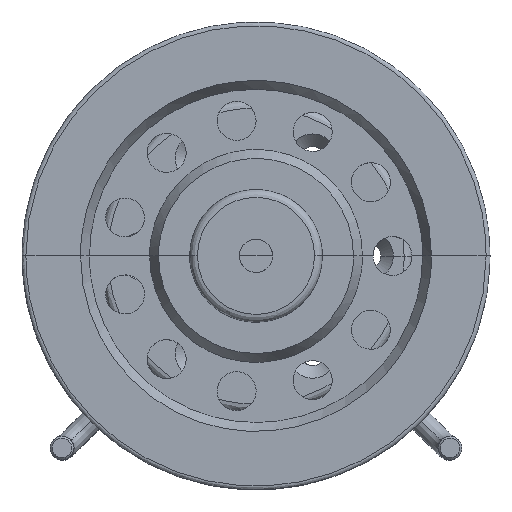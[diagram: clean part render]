
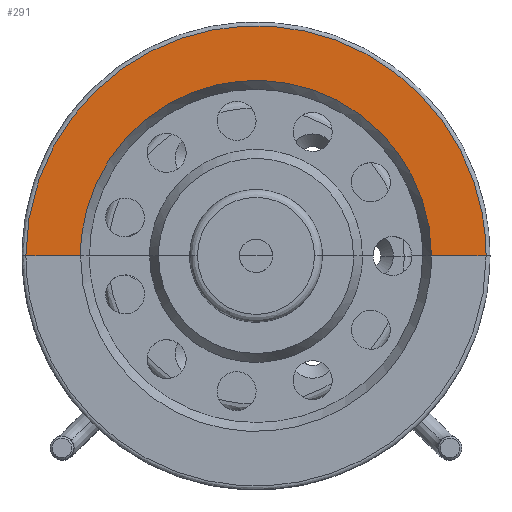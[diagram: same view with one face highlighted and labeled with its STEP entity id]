
A CAD part, top view. The second image highlights one B-rep face of the part: STEP entity #291.
In plain terms, the highlighted free-form (B-spline) face has degree [2, 1] with [5, 2] control points.
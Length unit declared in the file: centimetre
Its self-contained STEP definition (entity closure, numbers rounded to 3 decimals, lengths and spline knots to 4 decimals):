
#291=ADVANCED_FACE($,(#491),#2518,.T.);
#491=FACE_OUTER_BOUND($,#704,.T.);
#704=EDGE_LOOP($,(#1399,#1400,#1401,#1402));
#1399=ORIENTED_EDGE($,*,*,#2077,.T.);
#1400=ORIENTED_EDGE($,*,*,#1984,.F.);
#1401=ORIENTED_EDGE($,*,*,#1992,.F.);
#1402=ORIENTED_EDGE($,*,*,#2056,.F.);
#1984=EDGE_CURVE($,#2303,#2364,#2743,.T.);
#1992=EDGE_CURVE($,#2294,#2303,#8936,.T.);
#2056=EDGE_CURVE($,#2355,#2294,#2789,.T.);
#2077=EDGE_CURVE($,#2355,#2364,#8966,.T.);
#2294=VERTEX_POINT($,#8672);
#2303=VERTEX_POINT($,#8681);
#2355=VERTEX_POINT($,#8733);
#2364=VERTEX_POINT($,#8742);
#2518=(
BOUNDED_SURFACE()
B_SPLINE_SURFACE(2,1,((#8080,#8081),(#8082,#8083),(#8084,#8085),(#8086,#8087),
(#8088,#8089)),.UNSPECIFIED.,.F.,.F.,.F.)
B_SPLINE_SURFACE_WITH_KNOTS((3,2,3),(2,2),(0.,1.5708,3.1416),
(81.,95.),.UNSPECIFIED.)
GEOMETRIC_REPRESENTATION_ITEM()
RATIONAL_B_SPLINE_SURFACE(((1.,1.),(0.707,0.707),
(1.,1.),(0.707,0.707),(1.,1.)))
REPRESENTATION_ITEM($)
SURFACE()
);
#2743=(
BOUNDED_CURVE()
B_SPLINE_CURVE(2,(#7386,#7387,#7388,#7389,#7390),.UNSPECIFIED.,.F.,.F.)
B_SPLINE_CURVE_WITH_KNOTS((3,2,3),(0.,1.5708,3.1416),
.UNSPECIFIED.)
CURVE()
GEOMETRIC_REPRESENTATION_ITEM()
RATIONAL_B_SPLINE_CURVE((1.,0.707,1.,0.707,1.))
REPRESENTATION_ITEM($)
);
#2789=(
BOUNDED_CURVE()
B_SPLINE_CURVE(2,(#7648,#7649,#7650,#7651,#7652),.UNSPECIFIED.,.F.,.F.)
B_SPLINE_CURVE_WITH_KNOTS((3,2,3),(-3.1416,-1.5708,0.),
.UNSPECIFIED.)
CURVE()
GEOMETRIC_REPRESENTATION_ITEM()
RATIONAL_B_SPLINE_CURVE((1.,0.707,1.,0.707,1.))
REPRESENTATION_ITEM($)
);
#7386=CARTESIAN_POINT($,(36.0106,-6.8368,32.));
#7387=CARTESIAN_POINT($,(36.0106,38.1632,32.));
#7388=CARTESIAN_POINT($,(-8.9894,38.1632,32.));
#7389=CARTESIAN_POINT($,(-53.9894,38.1632,32.));
#7390=CARTESIAN_POINT($,(-53.9894,-6.8368,32.));
#7414=CARTESIAN_POINT($,(50.0106,-6.8368,32.));
#7415=CARTESIAN_POINT($,(36.0106,-6.8368,32.));
#7648=CARTESIAN_POINT($,(-67.9894,-6.8368,32.));
#7649=CARTESIAN_POINT($,(-67.9894,52.1632,32.));
#7650=CARTESIAN_POINT($,(-8.9894,52.1632,32.));
#7651=CARTESIAN_POINT($,(50.0106,52.1632,32.));
#7652=CARTESIAN_POINT($,(50.0106,-6.8368,32.));
#7729=CARTESIAN_POINT($,(-67.9894,-6.8368,32.));
#7730=CARTESIAN_POINT($,(-53.9894,-6.8368,32.));
#8080=CARTESIAN_POINT($,(50.0106,-6.8368,32.));
#8081=CARTESIAN_POINT($,(36.0106,-6.8368,32.));
#8082=CARTESIAN_POINT($,(50.0106,52.1632,32.));
#8083=CARTESIAN_POINT($,(36.0106,38.1632,32.));
#8084=CARTESIAN_POINT($,(-8.9894,52.1632,32.));
#8085=CARTESIAN_POINT($,(-8.9894,38.1632,32.));
#8086=CARTESIAN_POINT($,(-67.9894,52.1632,32.));
#8087=CARTESIAN_POINT($,(-53.9894,38.1632,32.));
#8088=CARTESIAN_POINT($,(-67.9894,-6.8368,32.));
#8089=CARTESIAN_POINT($,(-53.9894,-6.8368,32.));
#8672=CARTESIAN_POINT($,(50.0106,-6.8368,32.));
#8681=CARTESIAN_POINT($,(36.0106,-6.8368,32.));
#8733=CARTESIAN_POINT($,(-67.9894,-6.8368,32.));
#8742=CARTESIAN_POINT($,(-53.9894,-6.8368,32.));
#8936=B_SPLINE_CURVE_WITH_KNOTS($,1,(#7414,#7415),.UNSPECIFIED.,.F.,.F.,
(2,2),(81.,95.),.UNSPECIFIED.);
#8966=B_SPLINE_CURVE_WITH_KNOTS($,1,(#7729,#7730),.UNSPECIFIED.,.F.,.F.,
(2,2),(81.,95.),.UNSPECIFIED.);
